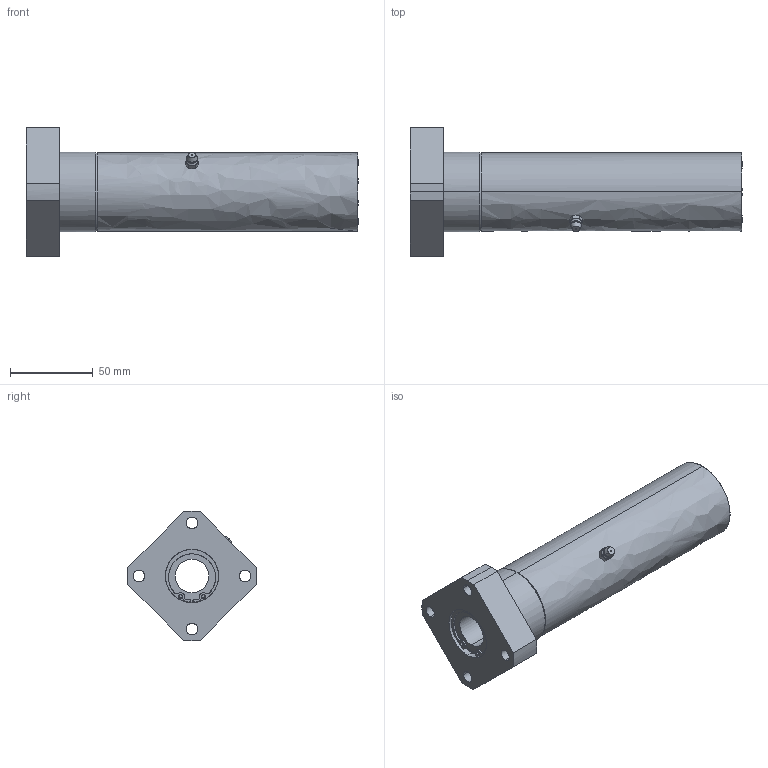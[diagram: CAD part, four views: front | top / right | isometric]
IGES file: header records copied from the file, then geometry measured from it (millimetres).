
Global section: file name: No Iges File Name specified; native system: AutoDesk Inventor R10; preprocessor: AutoDesk Inventor Iges Exporter R10; author: No Author specified; organization: No Organization specified; date: 20101214.140624; units: millimetre
Bounding box: 200 x 77.99 x 78 mm (x, y, z)
Surface area: 56968.2 mm2 (no closed solid volume)
Topology: 0 solids, 0 shells, 159 faces, 1093 edges, 1091 vertices
Faces by surface type: bspline 159
